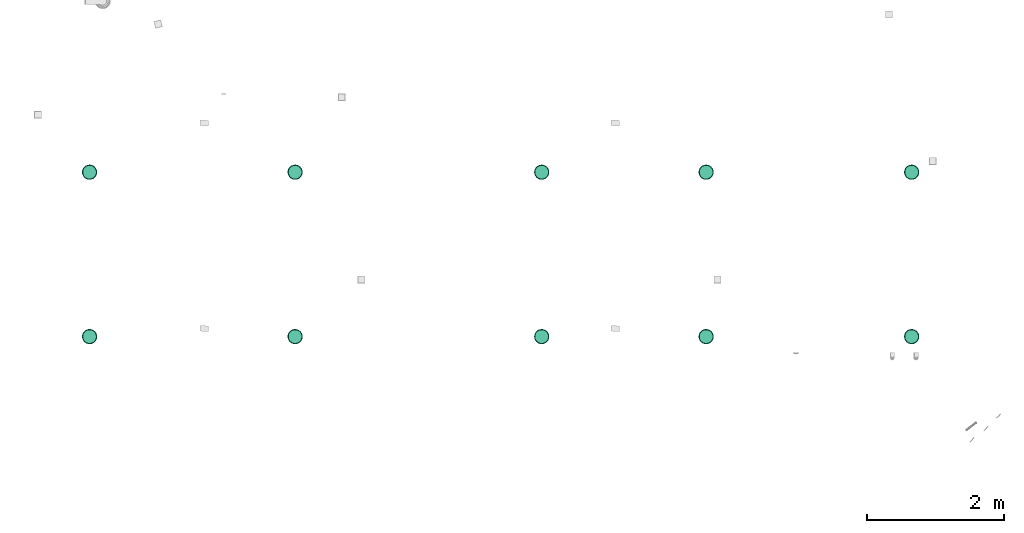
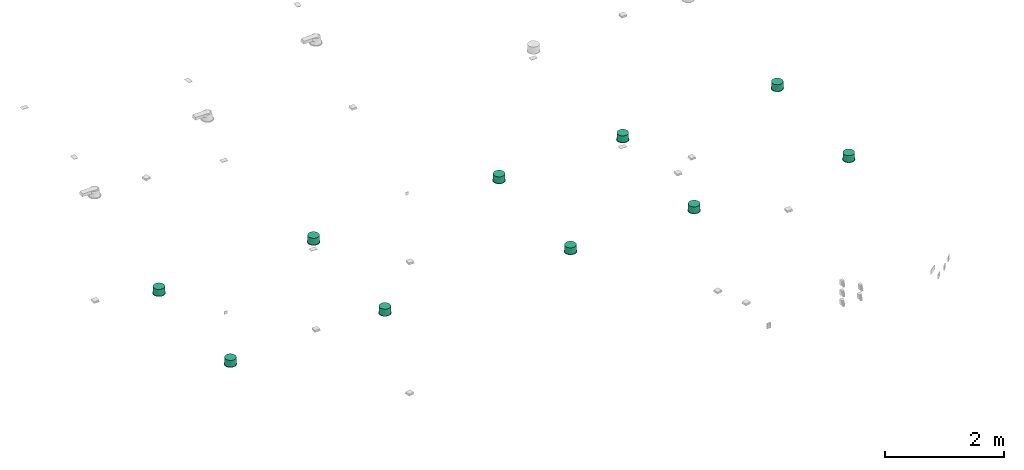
# One storey, part 1 of 9: 10 flow terminals.
"""IFC2X3 building model written with IfcOpenShell, lengths in millimetres."""

from ifc_helpers import new_model, entity, si_unit, converted_unit, derived_unit, direction, frame, origin, place, context, subcontext, project, spatial, faceted_brep, source, transform, mapped, material, type_object, element, save


model = new_model("IFC2X3")

# Units and contexts
model_context = context("Model", 3, precision=0.01, world=frame((0.0, 4.29681676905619e-09, 0.0)), true_north=direction((4.01073788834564e-13, 1.0)))
plan_context = context("Plan", 3, precision=0.01, world=frame((0.0, 4.29681676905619e-09, 0.0)), true_north=direction((4.01073788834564e-13, 1.0)))
body_context = subcontext(model_context, "Body", "Model", "MODEL_VIEW")
ifc_project = project(units=[converted_unit("PLANEANGLEUNIT", "DEGREE", entity("IfcPositiveLengthMeasure", 0.0174532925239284), si_unit("PLANEANGLEUNIT", "RADIAN"), dimensions=[0, 0, 0, 0, 0, 0, 0]), si_unit("AREAUNIT", "SQUARE_METRE"), si_unit("LENGTHUNIT", "METRE", prefix="MILLI"), si_unit("MASSUNIT", "GRAM", prefix="KILO"), si_unit("POWERUNIT", "WATT"), si_unit("PRESSUREUNIT", "PASCAL", prefix="KILO"), si_unit("FORCEUNIT", "NEWTON", prefix="KILO"), si_unit("ELECTRICVOLTAGEUNIT", "VOLT"), si_unit("ELECTRICCURRENTUNIT", "AMPERE"), si_unit("THERMODYNAMICTEMPERATUREUNIT", "DEGREE_CELSIUS"), si_unit("TIMEUNIT", "SECOND"), si_unit("VOLUMEUNIT", "CUBIC_METRE"), derived_unit("LINEARVELOCITYUNIT", [(si_unit("LENGTHUNIT", "METRE"), 1), (si_unit("TIMEUNIT", "SECOND"), -1)]), derived_unit("VOLUMETRICFLOWRATEUNIT", [(si_unit("VOLUMEUNIT", "CUBIC_METRE"), 1), (si_unit("TIMEUNIT", "SECOND"), -1)]), derived_unit("THERMALTRANSMITTANCEUNIT", [(si_unit("POWERUNIT", "WATT"), 1), (si_unit("THERMODYNAMICTEMPERATUREUNIT", "KELVIN"), -1), (si_unit("AREAUNIT", "SQUARE_METRE"), -1)]), derived_unit("SOUNDPRESSUREUNIT", [(si_unit("PRESSUREUNIT", "PASCAL"), 1)])], contexts=[model_context, plan_context])

# Site, building, storey
site_placement = place(None, frame((0.0, -4.29681676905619e-09, 0.0), z_axis=(0.0, 0.0, 1.0), x_axis=(1.0, 0.0, 0.0)))
site = spatial("IfcSite", under=ifc_project, at=site_placement, Name="Default", CompositionType="ELEMENT")
building_placement = place(site_placement, frame((0.0, 4.29681676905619e-09, 0.0), z_axis=(0.0, 0.0, 1.0), x_axis=(1.0, 0.0, 0.0)))
building = spatial("IfcBuilding", under=site, at=building_placement, CompositionType="ELEMENT")
storey_placement = place(building_placement, frame((0.0, 0.0, 210900.0), z_axis=(0.0, 0.0, 1.0), x_axis=(1.0, 0.0, 0.0)))
storey = spatial("IfcBuildingStorey", under=building, at=storey_placement, Name="Nivå F", CompositionType="ELEMENT", Elevation=210900.0)

# Flow terminals
ifc_material = material(Name="Zumtobel_Metal_White")
light_fixture_type = type_object("IfcLightFixtureType", Name="IB5402 Lysarmatur innfelt rund:IB5402 Zumtobel Panos INF E200HG 29W LED930 LDO WH", PredefinedType="NOTDEFINED", material=ifc_material)
shared_shape = source(origin(), body_context, "Body", "Brep", [
    faceted_brep([(-82.2724133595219, -47.4999999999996, 1.0), (-95.2627944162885, -55.0, 1.0), (-86.522270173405, -66.3908729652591, 1.0), (-91.7629534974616, -24.587809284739, 1.0), (-77.7817459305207, -77.7817459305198, 1.0), (-67.1751442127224, -67.1751442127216, 1.0), (-100.757317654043, -41.7350474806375, 1.0), (-106.251840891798, -28.4700949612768, 1.0), (-95.0, 0.0, 1.0), (-108.125920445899, -14.2350474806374, 1.0), (-110.0, 0.0, 1.0), (-91.7629534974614, 24.5878092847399, 1.0), (-108.125920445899, 14.2350474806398, 1.0), (-106.251840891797, 28.4700949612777, 1.0), (-82.2724133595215, 47.5000000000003, 1.0), (-100.757317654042, 41.7350474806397, 1.0), (-95.262794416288, 55.0, 1.0), (-67.1751442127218, 67.1751442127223, 1.0), (-86.5222701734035, 66.390872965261, 1.0), (-77.7817459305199, 77.7817459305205, 1.0), (-47.4999999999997, 82.2724133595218, 1.0), (-66.3908729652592, 86.5222701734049, 1.0), (-55.0, 95.2627944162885, 1.0), (-24.5878092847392, 91.7629534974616, 1.0), (-41.7350474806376, 100.757317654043, 1.0), (-28.4700949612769, 106.251840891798, 1.0), (0.0, 95.0, 1.0), (-11.3138767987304, 108.510499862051, 1.0), (0.0, 110.0, 1.0), (24.5878092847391, 91.7629534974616, 1.0), (11.3138780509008, 108.5104996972, 1.0), (28.4700949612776, 106.251840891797, 1.0), (47.4999999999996, 82.2724133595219, 1.0), (41.7350474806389, 100.757317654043, 1.0), (55.0, 95.2627944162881, 1.0), (66.3908729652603, 86.5222701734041, 1.0), (77.7817459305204, 77.78174593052, 1.0), (67.1751442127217, 67.1751442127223, 1.0), (86.5222701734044, 66.3908729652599, 1.0), (95.2627944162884, 55.0, 1.0), (82.2724133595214, 47.5000000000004, 1.0), (100.757317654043, 41.7350474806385, 1.0), (106.251840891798, 28.4700949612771, 1.0), (91.7629534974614, 24.58780928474, 1.0), (108.125920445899, 14.2350474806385, 1.0), (110.0, 0.0, 1.0), (95.0, 0.0, 1.0), (108.125920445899, -14.2350474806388, 1.0), (106.251840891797, -28.4700949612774, 1.0), (91.7629534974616, -24.5878092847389, 1.0), (100.757317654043, -41.7350474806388, 1.0), (95.2627944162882, -55.0, 1.0), (82.272413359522, -47.4999999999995, 1.0), (86.5222701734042, -66.3908729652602, 1.0), (77.7817459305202, -77.7817459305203, 1.0), (67.1751442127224, -67.1751442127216, 1.0), (66.3908729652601, -86.5222701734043, 1.0), (55.0, -95.2627944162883, 1.0), (47.5000000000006, -82.2724133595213, 1.0), (41.7350474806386, -100.757317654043, 1.0), (28.4700949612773, -106.251840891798, 1.0), (24.5878092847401, -91.7629534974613, 1.0), (11.3138768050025, -108.510499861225, 1.0), (0.0, -110.0, 1.0), (0.0, -95.0, 1.0), (-14.2350474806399, -108.125920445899, 1.0), (-28.4700949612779, -106.251840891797, 1.0), (-24.58780928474, -91.7629534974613, 1.0), (-41.7350474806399, -100.757317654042, 1.0), (-55.0, -95.2627944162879, 1.0), (-47.5000000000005, -82.2724133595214, 1.0), (-66.3908729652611, -86.5222701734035, 1.0), (82.272413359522, -47.4999999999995, -3.0), (95.2627944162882, -55.0, -3.0), (86.5222701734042, -66.3908729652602, -3.0), (91.7629534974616, -24.5878092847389, -3.0), (77.7817459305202, -77.7817459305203, -3.0), (67.1751442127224, -67.1751442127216, -3.0), (100.757317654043, -41.7350474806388, -3.0), (106.251840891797, -28.4700949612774, -3.0), (95.0, 0.0, -3.0), (108.125920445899, -14.2350474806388, -3.0), (110.0, 0.0, -3.0), (91.7629534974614, 24.58780928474, -3.0), (108.125920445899, 14.2350474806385, -3.0), (106.251840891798, 28.4700949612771, -3.0), (82.2724133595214, 47.5000000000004, -3.0), (100.757317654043, 41.7350474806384, -3.0), (95.2627944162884, 55.0, -3.0), (67.1751442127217, 67.1751442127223, -3.0), (86.5222701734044, 66.3908729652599, -3.0), (77.7817459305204, 77.78174593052, -3.0), (47.4999999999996, 82.2724133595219, -3.0), (66.3908729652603, 86.5222701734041, -3.0), (55.0, 95.2627944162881, -3.0), (24.5878092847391, 91.7629534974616, -3.0), (41.7350474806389, 100.757317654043, -3.0), (28.4700949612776, 106.251840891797, -3.0), (0.0, 95.0, -3.0), (14.2350474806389, 108.125920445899, -3.0), (0.0, 110.0, -3.0), (-24.5878092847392, 91.7629534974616, -3.0), (-14.2350474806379, 108.125920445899, -3.0), (-28.4700949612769, 106.251840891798, -3.0), (-47.4999999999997, 82.2724133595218, -3.0), (-41.7350474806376, 100.757317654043, -3.0), (-55.0, 95.2627944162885, -3.0), (-66.3908729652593, 86.5222701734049, -3.0), (-77.78174593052, 77.7817459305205, -3.0), (-67.1751442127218, 67.1751442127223, -3.0), (-86.5222701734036, 66.390872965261, -3.0), (-95.262794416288, 55.0, -3.0), (-82.2724133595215, 47.5000000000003, -3.0), (-100.757317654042, 41.7350474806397, -3.0), (-106.251840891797, 28.4700949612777, -3.0), (-91.7629534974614, 24.5878092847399, -3.0), (-108.125920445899, 14.2350474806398, -3.0), (-110.0, 0.0, -3.0), (-95.0, 0.0, -3.0), (-108.125920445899, -14.2350474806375, -3.0), (-106.251840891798, -28.4700949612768, -3.0), (-91.7629534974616, -24.587809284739, -3.0), (-100.757317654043, -41.7350474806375, -3.0), (-95.2627944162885, -55.0, -3.0), (-82.2724133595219, -47.4999999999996, -3.0), (-86.522270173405, -66.3908729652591, -3.0), (-77.7817459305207, -77.7817459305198, -3.0), (-67.1751442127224, -67.1751442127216, -3.0), (-66.3908729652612, -86.5222701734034, -3.0), (-55.0, -95.2627944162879, -3.0), (-47.5000000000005, -82.2724133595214, -3.0), (-41.7350474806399, -100.757317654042, -3.0), (-28.470094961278, -106.251840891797, -3.0), (-24.5878092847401, -91.7629534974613, -3.0), (-14.2350474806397, -108.125920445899, -3.0), (0.0, -110.0, -3.0), (0.0, -95.0, -3.0), (14.2350474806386, -108.125920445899, -3.0), (28.4700949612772, -106.251840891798, -3.0), (24.5878092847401, -91.7629534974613, -3.0), (41.7350474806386, -100.757317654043, -3.0), (55.0, -95.2627944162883, -3.0), (47.5000000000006, -82.2724133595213, -3.0), (66.39087296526, -86.5222701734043, -3.0)], [[[0, 1, 2]], [[1, 0, 3]], [[0, 2, 4]], [[0, 4, 5]], [[3, 6, 1]], [[3, 7, 6]], [[7, 3, 8]], [[8, 9, 7]], [[8, 10, 9]], [[10, 8, 11]], [[11, 12, 10]], [[11, 13, 12]], [[13, 11, 14]], [[14, 15, 13]], [[14, 16, 15]], [[17, 16, 14]], [[17, 18, 16]], [[17, 19, 18]], [[20, 19, 17]], [[20, 21, 19]], [[20, 22, 21]], [[20, 23, 22]], [[23, 24, 22]], [[23, 25, 24]], [[25, 23, 26]], [[26, 27, 25]], [[26, 28, 27]], [[26, 29, 28]], [[29, 30, 28]], [[29, 31, 30]], [[29, 32, 31]], [[32, 33, 31]], [[32, 34, 33]], [[32, 35, 34]], [[32, 36, 35]], [[32, 37, 36]], [[37, 38, 36]], [[37, 39, 38]], [[39, 37, 40]], [[40, 41, 39]], [[40, 42, 41]], [[43, 42, 40]], [[43, 44, 42]], [[43, 45, 44]], [[46, 45, 43]], [[46, 47, 45]], [[46, 48, 47]], [[49, 48, 46]], [[49, 50, 48]], [[49, 51, 50]], [[52, 51, 49]], [[52, 53, 51]], [[52, 54, 53]], [[54, 52, 55]], [[55, 56, 54]], [[55, 57, 56]], [[55, 58, 57]], [[58, 59, 57]], [[58, 60, 59]], [[58, 61, 60]], [[61, 62, 60]], [[61, 63, 62]], [[61, 64, 63]], [[64, 65, 63]], [[64, 66, 65]], [[67, 66, 64]], [[67, 68, 66]], [[67, 69, 68]], [[67, 70, 69]], [[70, 5, 69]], [[5, 71, 69]], [[5, 4, 71]], [[72, 73, 74]], [[73, 72, 75]], [[72, 74, 76]], [[72, 76, 77]], [[75, 78, 73]], [[75, 79, 78]], [[79, 75, 80]], [[80, 81, 79]], [[80, 82, 81]], [[82, 80, 83]], [[83, 84, 82]], [[83, 85, 84]], [[85, 83, 86]], [[86, 87, 85]], [[86, 88, 87]], [[89, 88, 86]], [[89, 90, 88]], [[89, 91, 90]], [[92, 91, 89]], [[92, 93, 91]], [[92, 94, 93]], [[92, 95, 94]], [[95, 96, 94]], [[95, 97, 96]], [[97, 95, 98]], [[98, 99, 97]], [[98, 100, 99]], [[98, 101, 100]], [[101, 102, 100]], [[101, 103, 102]], [[101, 104, 103]], [[104, 105, 103]], [[104, 106, 105]], [[104, 107, 106]], [[104, 108, 107]], [[104, 109, 108]], [[109, 110, 108]], [[109, 111, 110]], [[111, 109, 112]], [[112, 113, 111]], [[112, 114, 113]], [[115, 114, 112]], [[115, 116, 114]], [[115, 117, 116]], [[118, 117, 115]], [[118, 119, 117]], [[118, 120, 119]], [[121, 120, 118]], [[121, 122, 120]], [[121, 123, 122]], [[124, 123, 121]], [[124, 125, 123]], [[124, 126, 125]], [[126, 124, 127]], [[127, 128, 126]], [[127, 129, 128]], [[127, 130, 129]], [[130, 131, 129]], [[130, 132, 131]], [[130, 133, 132]], [[133, 134, 132]], [[133, 135, 134]], [[133, 136, 135]], [[136, 137, 135]], [[136, 138, 137]], [[139, 138, 136]], [[139, 140, 138]], [[139, 141, 140]], [[139, 142, 141]], [[142, 77, 141]], [[77, 143, 141]], [[77, 76, 143]], [[25, 27, 28, 100, 102, 103]], [[65, 66, 132, 134, 135, 63]], [[103, 105, 106, 22, 24, 25]], [[108, 110, 111, 16, 18, 19]], [[131, 132, 66, 68, 69, 129]], [[106, 107, 108, 19, 21, 22]], [[111, 113, 114, 13, 15, 16]], [[10, 12, 13, 114, 116, 117]], [[117, 119, 120, 7, 9, 10]], [[2, 1, 123, 125, 126, 4]], [[128, 129, 69, 71, 4, 126]], [[120, 122, 123, 1, 6, 7]], [[60, 62, 63, 135, 137, 138]], [[97, 31, 33, 34, 94, 96]], [[138, 140, 141, 57, 59, 60]], [[76, 74, 73, 51, 53, 54]], [[34, 35, 36, 91, 93, 94]], [[141, 143, 76, 54, 56, 57]], [[73, 78, 79, 48, 50, 51]], [[84, 85, 42, 44, 45, 82]], [[81, 82, 45, 47, 48, 79]], [[87, 88, 39, 41, 42, 85]], [[100, 28, 30, 31, 97, 99]], [[88, 90, 91, 36, 38, 39]], [[98, 26, 23, 101]], [[101, 23, 20, 104]], [[112, 109, 17, 14]], [[17, 109, 104, 20]], [[115, 112, 14, 11]], [[115, 11, 8, 118]], [[118, 8, 3, 121]], [[121, 3, 0, 124]], [[130, 127, 5, 70]], [[5, 127, 124, 0]], [[133, 130, 70, 67]], [[133, 67, 64, 136]], [[136, 64, 61, 139]], [[139, 61, 58, 142]], [[72, 77, 55, 52]], [[55, 77, 142, 58]], [[75, 72, 52, 49]], [[75, 49, 46, 80]], [[80, 46, 43, 83]], [[83, 43, 40, 86]], [[37, 89, 86, 40]], [[32, 92, 89, 37]], [[32, 29, 95, 92]], [[29, 26, 98, 95]]]),
    faceted_brep([(-25.8819045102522, -96.5925826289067, 137.0), (0.0, -100.0, 137.0), (25.8819045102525, -96.5925826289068, 137.0), (50.0, -86.6025403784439, 137.0), (70.7106781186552, -70.7106781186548, 137.0), (86.6025403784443, -50.0, 137.0), (96.5925826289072, -25.8819045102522, 137.0), (100.0, 0.0, 137.0), (96.5925826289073, 25.8819045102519, 137.0), (86.6025403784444, 50.0, 137.0), (70.7106781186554, 70.7106781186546, 137.0), (50.0, 86.6025403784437, 137.0), (25.8819045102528, 96.5925826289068, 137.0), (0.0, 100.0, 137.0), (-25.8819045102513, 96.5925826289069, 137.0), (-50.0, 86.6025403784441, 137.0), (-70.7106781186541, 70.710678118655, 137.0), (-86.6025403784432, 50.0, 137.0), (-96.5925826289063, 25.8819045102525, 137.0), (-100.0, 0.0, 137.0), (-96.5925826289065, -25.8819045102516, 137.0), (-86.6025403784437, -50.0, 137.0), (-70.7106781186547, -70.7106781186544, 137.0), (-50.0, -86.6025403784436, 137.0), (86.6025403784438, -50.0, 1.0), (70.7106781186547, -70.7106781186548, 1.0), (82.272413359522, -47.4999999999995, 1.0), (91.7629534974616, -24.5878092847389, 1.0), (96.5925826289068, -25.8819045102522, 1.0), (67.1751442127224, -67.1751442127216, 1.0), (50.0, -86.6025403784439, 1.0), (47.5000000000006, -82.2724133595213, 1.0), (24.5878092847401, -91.7629534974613, 1.0), (25.8819045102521, -96.5925826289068, 1.0), (0.0, -95.0, 1.0), (0.0, -100.0, 1.0), (-24.58780928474, -91.7629534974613, 1.0), (-25.8819045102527, -96.5925826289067, 1.0), (-47.5000000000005, -82.2724133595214, 1.0), (-50.0, -86.6025403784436, 1.0), (-67.1751442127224, -67.1751442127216, 1.0), (-70.7106781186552, -70.7106781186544, 1.0), (-82.2724133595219, -47.4999999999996, 1.0), (-86.6025403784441, -50.0, 1.0), (-91.7629534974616, -24.587809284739, 1.0), (-96.592582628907, -25.8819045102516, 1.0), (-95.0, 0.0, 1.0), (-100.0, 0.0, 1.0), (-91.7629534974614, 24.5878092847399, 1.0), (-96.5925826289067, 25.8819045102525, 1.0), (-82.2724133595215, 47.5000000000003, 1.0), (-86.6025403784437, 50.0, 1.0), (-67.1751442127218, 67.1751442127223, 1.0), (-70.7106781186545, 70.710678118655, 1.0), (-47.4999999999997, 82.2724133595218, 1.0), (-50.0, 86.6025403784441, 1.0), (-25.8819045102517, 96.5925826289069, 1.0), (-24.5878092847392, 91.7629534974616, 1.0), (0.0, 100.0, 1.0), (0.0, 95.0, 1.0), (25.8819045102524, 96.5925826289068, 1.0), (24.5878092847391, 91.7629534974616, 1.0), (50.0, 86.6025403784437, 1.0), (47.4999999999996, 82.2724133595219, 1.0), (70.7106781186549, 70.7106781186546, 1.0), (67.1751442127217, 67.1751442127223, 1.0), (86.602540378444, 50.0, 1.0), (82.2724133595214, 47.5000000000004, 1.0), (96.5925826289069, 25.8819045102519, 1.0), (91.7629534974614, 24.58780928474, 1.0), (100.0, 0.0, 1.0), (95.0, 0.0, 1.0), (-91.7629534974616, -24.587809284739, 7.0), (-95.0, 0.0, 7.0), (-91.7629534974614, 24.5878092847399, 7.0), (-82.2724133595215, 47.5000000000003, 7.0), (-67.1751442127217, 67.1751442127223, 7.0), (-47.4999999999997, 82.2724133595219, 7.0), (-24.5878092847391, 91.7629534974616, 7.0), (0.0, 95.0, 7.0), (24.5878092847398, 91.7629534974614, 7.0), (47.5000000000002, 82.2724133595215, 7.0), (67.1751442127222, 67.1751442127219, 7.0), (82.2724133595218, 47.4999999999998, 7.0), (91.7629534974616, 24.5878092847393, 7.0), (95.0, 0.0, 7.0), (91.7629534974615, -24.5878092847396, 7.0), (82.2724133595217, -47.5000000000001, 7.0), (67.175144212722, -67.1751442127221, 7.0), (47.5, -82.2724133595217, 7.0), (24.5878092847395, -91.7629534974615, 7.0), (0.0, -95.0, 7.0), (-24.58780928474, -91.7629534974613, 7.0), (-47.5000000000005, -82.2724133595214, 7.0), (-67.1751442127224, -67.1751442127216, 7.0), (-82.2724133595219, -47.4999999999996, 7.0)], [[[0, 1, 2, 3, 4, 5, 6, 7, 8, 9, 10, 11, 12, 13, 14, 15, 16, 17, 18, 19, 20, 21, 22, 23]], [[24, 25, 26]], [[24, 26, 27]], [[27, 28, 24]], [[26, 25, 29]], [[30, 29, 25]], [[29, 30, 31]], [[31, 30, 32]], [[33, 32, 30]], [[33, 34, 32]], [[34, 33, 35]], [[36, 34, 35]], [[35, 37, 36]], [[36, 37, 38]], [[39, 38, 37]], [[38, 39, 40]], [[40, 39, 41]], [[42, 40, 41]], [[41, 43, 42]], [[42, 43, 44]], [[45, 44, 43]], [[44, 45, 46]], [[46, 45, 47]], [[46, 47, 48]], [[48, 47, 49]], [[48, 49, 50]], [[51, 50, 49]], [[52, 50, 51]], [[52, 51, 53]], [[53, 54, 52]], [[55, 54, 53]], [[54, 55, 56]], [[56, 57, 54]], [[58, 57, 56]], [[58, 59, 57]], [[60, 59, 58]], [[60, 61, 59]], [[61, 60, 62]], [[62, 63, 61]], [[63, 62, 64]], [[63, 64, 65]], [[64, 66, 65]], [[67, 65, 66]], [[67, 66, 68]], [[68, 69, 67]], [[70, 69, 68]], [[28, 71, 70]], [[70, 71, 69]], [[28, 27, 71]], [[14, 56, 55, 15]], [[53, 16, 15, 55]], [[17, 51, 49, 18]], [[53, 51, 17, 16]], [[18, 49, 47, 19]], [[56, 14, 13, 58]], [[20, 45, 43, 21]], [[41, 22, 21, 43]], [[23, 39, 37, 0]], [[41, 39, 23, 22]], [[0, 37, 35, 1]], [[45, 20, 19, 47]], [[2, 1, 35, 33]], [[3, 2, 33, 30]], [[5, 24, 28, 6]], [[70, 7, 6, 28]], [[25, 4, 3, 30]], [[25, 24, 5, 4]], [[8, 68, 66, 9]], [[64, 10, 9, 66]], [[11, 62, 60, 12]], [[64, 62, 11, 10]], [[12, 60, 58, 13]], [[68, 8, 7, 70]], [[72, 73, 74, 75, 76, 77, 78, 79, 80, 81, 82, 83, 84, 85, 86, 87, 88, 89, 90, 91, 92, 93, 94, 95]], [[77, 54, 57, 78]], [[78, 57, 59, 79]], [[74, 48, 50, 75]], [[75, 50, 52, 76]], [[76, 52, 54, 77]], [[48, 74, 73, 46]], [[94, 40, 42, 95]], [[95, 42, 44, 72]], [[91, 34, 36, 92]], [[92, 36, 38, 93]], [[93, 38, 40, 94]], [[46, 73, 72, 44]], [[89, 31, 32, 90]], [[90, 32, 34, 91]], [[86, 27, 26, 87]], [[87, 26, 29, 88]], [[88, 29, 31, 89]], [[27, 86, 85, 71]], [[65, 67, 83, 82]], [[67, 69, 84, 83]], [[61, 63, 81, 80]], [[81, 63, 65, 82]], [[59, 61, 80, 79]], [[71, 85, 84, 69]]]),
])
for number, where, z_axis, x_axis in (
    (1, (715500.000000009, 438599.999999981, 2781.25), (0.0, 0.0, 1.0), (0.0, 1.0, 0.0)),
    (2, (715500.000000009, 440999.999999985, 2781.25), (0.0, 0.0, 1.0), (0.0, 1.0, 0.0)),
    (3, (718500.00000001, 438599.999999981, 2781.25), (0.0, 0.0, 1.0), (0.0, 1.0, 0.0)),
    (4, (718500.000000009, 440999.999999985, 2781.25), (0.0, 0.0, 1.0), (0.0, 1.0, 0.0)),
    (5, (722100.00000001, 438599.999999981, 2781.25), (0.0, 0.0, 1.0), (0.0, 1.0, 0.0)),
    (6, (722100.000000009, 440999.999999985, 2781.25), (0.0, 0.0, 1.0), (0.0, 1.0, 0.0)),
    (7, (724500.00000001, 438599.999999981, 2781.25), (0.0, 0.0, 1.0), (0.0, 1.0, 0.0)),
    (8, (724500.000000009, 440999.999999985, 2781.25), (0.0, 0.0, 1.0), (1.0, 0.0, 0.0)),
    (9, (727500.00000001, 438599.999999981, 2781.25), (0.0, 0.0, 1.0), (1.0, 0.0, 0.0)),
    (10, (727500.000000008, 440999.999999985, 2781.25), (0.0, 0.0, 1.0), (1.0, 0.0, 0.0)),
):
    element("IfcFlowTerminal", number, at=place(storey_placement, frame(where, z_axis=z_axis, x_axis=x_axis)), inside=storey, type_object=light_fixture_type, material=ifc_material, Name="IB5402 Lysarmatur innfelt rund:IB5402 Zumtobel Panos INF E200HG 29W LED930 LDO WH", ObjectType="IB5402 Lysarmatur innfelt rund:IB5402 Zumtobel Panos INF E200HG 29W LED930 LDO WH", context=body_context, shape_type="MappedRepresentation", body=[
        mapped(shared_shape, transform((0.0, 0.0, 0.0), scale=1.0)),
    ])

save(model, "model.ifc")
